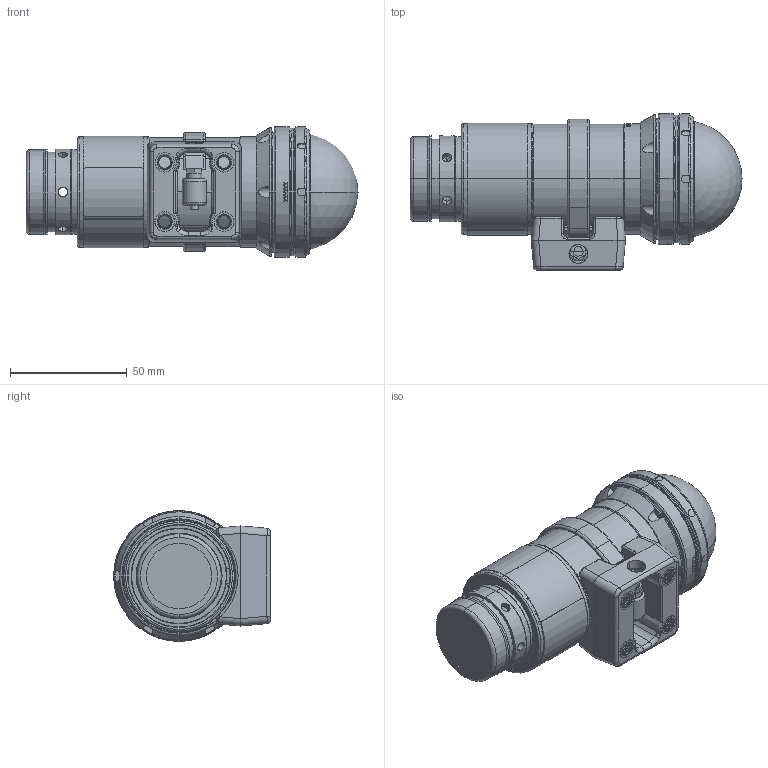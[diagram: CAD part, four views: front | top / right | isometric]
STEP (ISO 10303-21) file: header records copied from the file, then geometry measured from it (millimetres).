
FILE_DESCRIPTION (( 'STEP AP203' ), '1' );
FILE_NAME ('SWSC-X070-X-TI-X-SRSEANETS (STEP).STEP', '2024-06-17T21:30:52', ( '' ), ( '' ), 'SwSTEP 2.0', 'SolidWorks 2023', '' );
FILE_SCHEMA (( 'CONFIG_CONTROL_DESIGN' ));
Products named in the file (1): SWSC-X070-X-TI-X-SRSEANETS (STEP)
Bounding box: 142.22 x 67.13 x 56 mm (x, y, z)
Surface area: 44988.5 mm2 (no closed solid volume)
Topology: 0 solids, 31 shells, 654 faces, 2398 edges, 1743 vertices
Faces by surface type: cylinder 281, bspline 114, plane 99, torus 95, cone 57, sphere 8
Entity records: 48264 total; most frequent: CARTESIAN_POINT 30992, ORIENTED_EDGE 3666, DIRECTION 2911, EDGE_CURVE 2382, VERTEX_POINT 1743, AXIS2_PLACEMENT_3D 1178, B_SPLINE_CURVE_WITH_KNOTS 889, EDGE_LOOP 716
